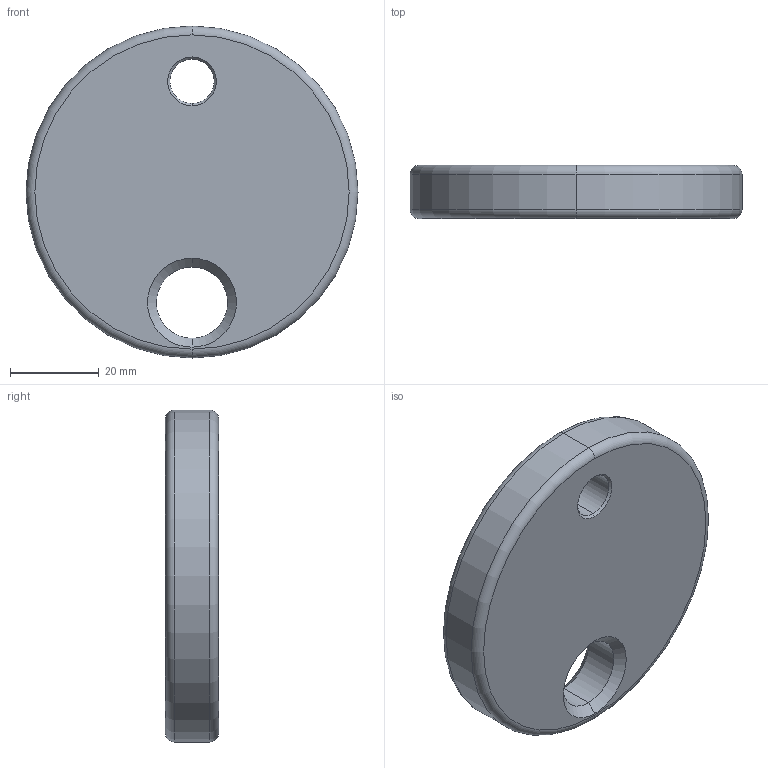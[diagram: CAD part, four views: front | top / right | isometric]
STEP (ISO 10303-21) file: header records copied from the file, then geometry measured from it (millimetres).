
FILE_DESCRIPTION (( 'STEP AP203' ), '1' );
FILE_NAME ('160402_75.step', '2014-08-11T15:59:15', ( 'User' ), ( '' ), 'SwSTEP 2.0', 'SolidWorks 2014', '' );
FILE_SCHEMA (( 'CONFIG_CONTROL_DESIGN' ));
Length unit declared in the file: millimetre
Products named in the file (1): 160402_75
Bounding box: 75 x 12 x 75 mm (x, y, z)
Volume: 49002 mm3; surface area: 11548.9 mm2
Topology: 1 solids, 1 shells, 20 faces, 42 edges, 24 vertices
Faces by surface type: cone 8, cylinder 6, torus 4, plane 2
Entity records: 623 total; most frequent: DIRECTION 112, CARTESIAN_POINT 87, ORIENTED_EDGE 84, AXIS2_PLACEMENT_3D 49, EDGE_CURVE 42, CIRCLE 28, VERTEX_POINT 24, EDGE_LOOP 24
